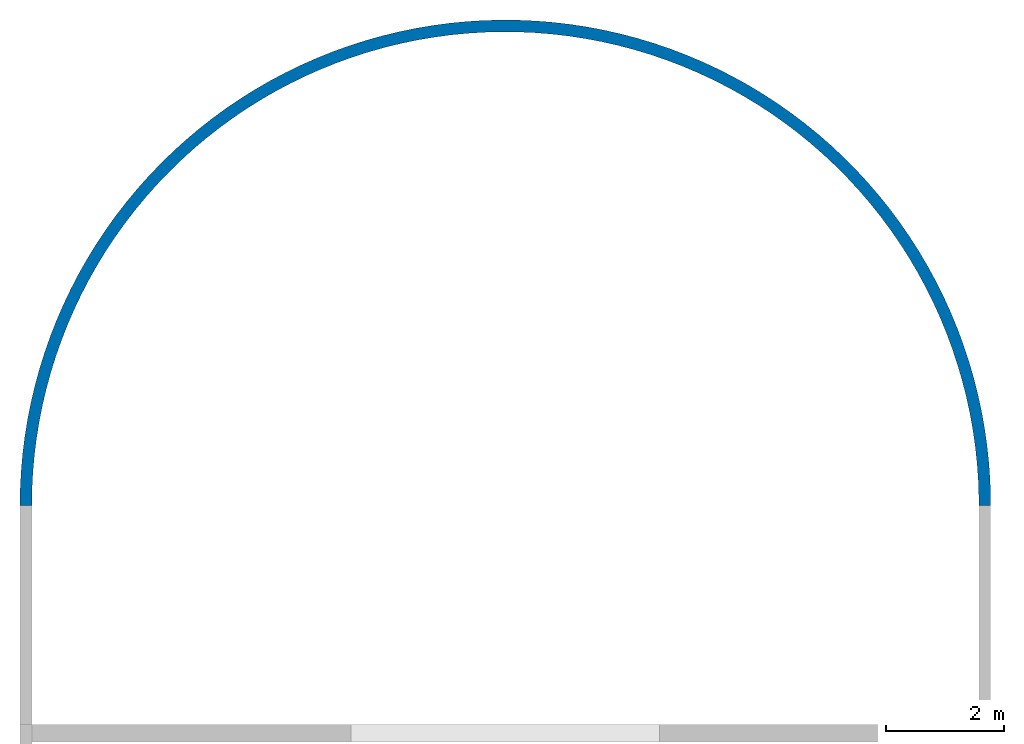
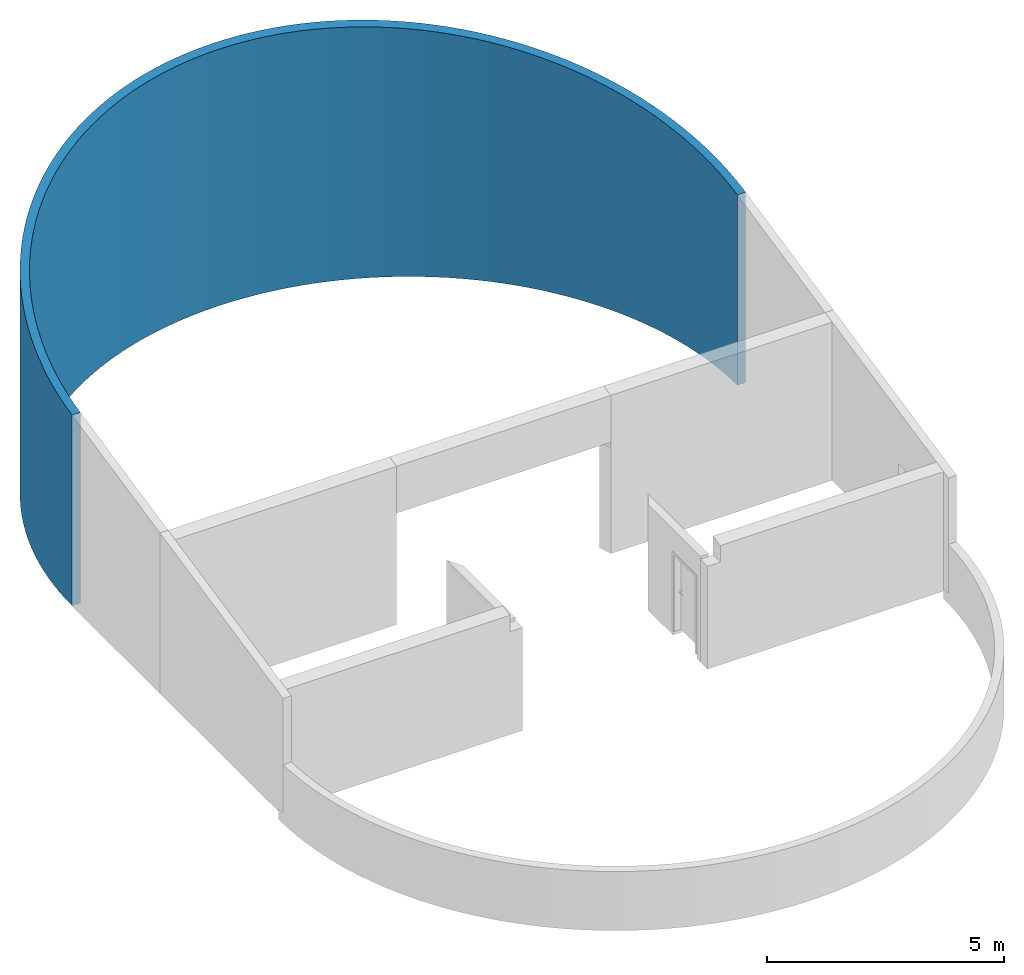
# One storey, part 7 of 7: 1 wall.
"""IFC4 building model written with IfcOpenShell, lengths in millimetres."""

from ifc_helpers import new_model, entity, si_unit, converted_unit, derived_unit, direction, frame, origin_with_axes, place, context, subcontext, project, spatial, polygons, material, constituent, constituent_set, type_object, element, save


model = new_model("IFC4")

# Units and contexts
model_context = context("Model", 3, precision=0.01, world=origin_with_axes(), true_north=direction((0.0, 1.0)))
body_context = subcontext(model_context, "Body", "Model", "MODEL_VIEW")
ifc_project = project(units=[si_unit("LENGTHUNIT", "METRE", prefix="MILLI"), si_unit("AREAUNIT", "SQUARE_METRE"), si_unit("VOLUMEUNIT", "CUBIC_METRE"), converted_unit("PLANEANGLEUNIT", "DEGREE", entity("IfcPlaneAngleMeasure", 0.0174532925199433), si_unit("PLANEANGLEUNIT", "RADIAN"), dimensions=[0, 0, 0, 0, 0, 0, 0]), converted_unit("TIMEUNIT", "Year", entity("IfcTimeMeasure", 31557600.0), si_unit("TIMEUNIT", "SECOND"), dimensions=[0, 0, 1, 0, 0, 0, 0]), si_unit("MASSUNIT", "GRAM", prefix="KILO"), si_unit("THERMODYNAMICTEMPERATUREUNIT", "DEGREE_CELSIUS"), si_unit("LUMINOUSINTENSITYUNIT", "LUMEN"), si_unit("ENERGYUNIT", "JOULE", prefix="MEGA"), derived_unit("THERMALCONDUCTANCEUNIT", [(si_unit("POWERUNIT", "WATT"), 1), (si_unit("LENGTHUNIT", "METRE"), -1), (si_unit("THERMODYNAMICTEMPERATUREUNIT", "KELVIN"), -1)]), derived_unit("SPECIFICHEATCAPACITYUNIT", [(si_unit("ENERGYUNIT", "JOULE"), 1), (si_unit("MASSUNIT", "GRAM", prefix="KILO"), -1), (si_unit("THERMODYNAMICTEMPERATUREUNIT", "KELVIN"), -1)]), derived_unit("MASSDENSITYUNIT", [(si_unit("MASSUNIT", "GRAM", prefix="KILO"), 1), (si_unit("VOLUMEUNIT", "CUBIC_METRE"), -1)])], contexts=[model_context])

# Site, building, storey
site_placement = place(None, origin_with_axes())
site = spatial("IfcSite", under=ifc_project, at=site_placement, Name="Exteriér", CompositionType="ELEMENT")
building_placement = place(site_placement, origin_with_axes())
building = spatial("IfcBuilding", under=site, at=building_placement, Name="Univerzitní lezecké centrum", CompositionType="ELEMENT")
storey_placement = place(building_placement, frame((0.0, 0.0, 9600.000000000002), z_axis=(0.0, 0.0, 1.0), x_axis=(1.0, 0.0, 0.0)))
storey = spatial("IfcBuildingStorey", under=building, at=storey_placement, Name="4.NP", CompositionType="ELEMENT", Elevation=9600.0)

# Wall
ifc_material = material(Name="Beton vyztužený - vnější svislé kce")
ifc_constituent = constituent(ifc_material, Name="Beton vyztužený - vnější svislé kce")
ifc_constituent_set = constituent_set(constituents=[ifc_constituent], Name="!Vnější betonová stěna 200 mm")
wall_type = type_object("IfcWallType", Name="!Vnější betonová stěna 200 mm 200", PredefinedType="NOTDEFINED")
wall_placement = place(storey_placement, frame((10449.85164885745, 8399.999999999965, -100.0000000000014), z_axis=(0.0, 0.0, 1.0), x_axis=(0.0, 1.0, 0.0)))
element("IfcWall", 1, at=wall_placement, inside=storey, type_object=wall_type, material=ifc_constituent_set, Name="St01", PredefinedType="NOTDEFINED", context=body_context, shape_type="Tessellation", body=[
    polygons([(436.4905859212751, -189.6680701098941, 4995.909327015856), (145.5579959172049, -199.9999999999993, 4934.069696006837), (145.5579959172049, -199.9999999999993, 0.0), (436.4905859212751, -189.6680701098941, 0.0), (0.0, -199.9999999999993, 4903.130388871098), (726.8732015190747, -169.0172284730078, 5057.632057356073), (1016.339963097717, -138.0734949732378, 5119.160116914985), (1304.526145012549, -96.87585845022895, 5180.415980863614), (1591.068635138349, -45.47622757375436, 5241.322467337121), (1875.606392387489, 16.06063456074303, 5301.802834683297), (2157.780901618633, 87.65719203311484, 5361.780878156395), (2437.236625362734, 169.2232337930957, 5421.181025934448), (2713.621451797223, 260.6559873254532, 5479.928434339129), (2986.587138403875, 361.8402481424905, 5537.949082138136), (3255.78975075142, 472.6485249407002, 5595.169863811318), (3520.890095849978, 592.9412002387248, 5651.518681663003), (3781.554149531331, 722.5667062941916, 5706.924536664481), (4037.453477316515, 861.3617160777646, 5761.317617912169), (4288.265648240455, 1009.151349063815, 5814.629390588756), (4533.674641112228, 1165.749391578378, 5866.792682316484), (4773.371242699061, 1330.958531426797, 5917.741767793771), (5007.053437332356, 1504.570606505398, 5967.412451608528), (5234.426787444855, 1686.366867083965, 6015.742149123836), (5455.204804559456, 1876.118251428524, 6062.669965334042), (5669.109310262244, 2073.585674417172, 6108.136771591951), (5875.870786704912, 2278.520328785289, 6152.085280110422), (6075.228716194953, 2490.663998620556, 6194.46011614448), (6266.931909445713, 2709.749384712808, 6235.207887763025), (6450.738822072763, 2935.50044134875, 6274.277253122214), (6626.417858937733, 3167.632724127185, 6311.618985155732), (6793.747665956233, 3405.853748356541, 6347.186033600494), (6952.51740900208, 3649.863357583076, 6380.933584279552), (7102.52703955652, 3899.354101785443, 6412.819115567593), (7243.587546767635, 4154.011624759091, 6442.802451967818), (7375.521195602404, 4413.51506020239, 6470.845814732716), (7498.161750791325, 4677.537436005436, 6496.913869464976), (7611.354686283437, 4945.746086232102, 6520.973770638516), (7714.957379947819, 5217.803070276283, 6542.995202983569), (7808.83929327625, 5493.365598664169, 6562.950419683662), (7892.882135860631, 5772.086464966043, 6580.814277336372), (7966.980014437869, 6053.614483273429, 6596.564267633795), (8031.039566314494, 6337.59493069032, 6610.180545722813), (8084.980077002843, 6623.669994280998, 6621.645955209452), (8128.733581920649, 6911.479221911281, 6630.946049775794), (8162.244952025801, 7200.659976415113, 6638.069111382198), (8185.471963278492, 7490.847892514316, 6643.006165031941), (8198.385349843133, 7781.677335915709, 6645.750990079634), (8200.96884096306, 8072.78186400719, 6646.300128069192), (8193.219181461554, 8363.794687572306, 6644.652887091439), (8175.146135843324, 8654.349132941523, 6640.811342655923), (8146.77247599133, 8944.07910399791, 6634.780335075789), (8108.133952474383, 9232.619543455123, 6626.567463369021), (8059.27924950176, 9519.606892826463, 6616.18307568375), (8000.269923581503, 9804.679550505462, 6603.640256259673), (7931.180325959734, 10087.47832738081, 6588.954808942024), (7852.097508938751, 10367.64689941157, 6572.145237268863), (7763.121116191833, 10644.83225659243, 6553.232721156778), (7664.363257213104, 10918.68514774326, 6532.241090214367), (7555.948366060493, 11188.86052056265, 6509.196793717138), (7438.013044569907, 11455.01795639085, 6484.128867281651), (7310.70589023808, 11716.82209913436, 6457.068896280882), (7174.187308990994, 11973.94307781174, 6428.050976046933), (7028.629313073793, 12226.05692218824, 6397.111668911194), (6874.215304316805, 12472.84597097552, 6364.289958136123), (6711.139843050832, 12713.99927208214, 6329.627198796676), (6539.608402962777, 12949.21297441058, 6293.16706567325), (6359.837112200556, 13178.19071070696, 6254.955498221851), (6172.052481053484, 13400.64397098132, 6215.040642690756), (5976.491116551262, 13616.29246602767, 6173.472791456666), (5773.399424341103, 13824.86448058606, 6130.304319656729), (5563.033298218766, 14026.09721570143, 6085.589619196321), (5345.657797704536, 14219.73711984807, 6039.385030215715), (5121.546814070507, 14405.54020840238, 5991.748770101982), (4890.982725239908, 14583.27237106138, 5942.740860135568), (4654.256039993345, 14752.70966681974, 5892.423049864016), (4411.665031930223, 14913.63860613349, 5840.858739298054), (4163.515363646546, 15065.85641991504, 5788.112899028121), (3910.119701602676, 15209.17131502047, 5734.251988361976), (3651.797322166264, 15343.40271590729, 5679.343871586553), (3388.873709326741, 15468.38149215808, 5623.457732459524), (3121.680144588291, 15583.95017158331, 5566.663987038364), (2850.553289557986, 15689.96313863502, 5509.034194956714), (2575.834761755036, 15786.28681788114, 5450.640969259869), (2297.870704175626, 15872.79984230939, 5391.557884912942), (2017.011349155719, 15949.39320624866, 5331.85938609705), (1733.610577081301, 16015.97040271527, 5271.620692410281), (1448.025470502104, 16072.44754501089, 5210.91770409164), (1160.615864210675, 16118.75347241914, 5149.8269063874), (871.743891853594, 16154.82983986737, 5088.425273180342), (581.7735296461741, 16180.63119144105, 5026.79017000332), (291.0701377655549, 16196.12501765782, 4964.999256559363), (0.0, 16199.99999999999, 4903.130388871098), (0.0, 15999.99999999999, 4903.130388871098), (283.9708661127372, 15996.21952942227, 4963.490259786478), (567.5839313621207, 15981.10360140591, 5023.774077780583), (850.4818457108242, 15955.93155109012, 5083.905885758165), (1132.308160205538, 15920.73509504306, 5143.809918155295), (1412.707776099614, 15875.55858049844, 5203.410696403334), (1691.32739227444, 15820.45892947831, 5262.633124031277), (1967.815950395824, 15755.50556707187, 5321.40258128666), (2241.825077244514, 15680.78033396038, 5379.645019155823), (2513.009523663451, 15596.37738329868, 5437.28705266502), (2781.027599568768, 15502.40306208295, 5494.25605334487), (3045.541604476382, 15398.97577715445, 5550.480240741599), (3306.218253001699, 15286.22584600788, 5605.888772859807), (3562.729094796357, 15164.29533259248, 5660.411835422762), (3814.750928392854, 15033.33786831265, 5713.980729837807), (4061.966208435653, 14893.51845845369, 5766.527959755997), (4304.063445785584, 14745.01327427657, 5817.987316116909), (4540.737599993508, 14588.00943104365, 5868.293960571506), (4771.690463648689, 14422.704752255, 5917.384507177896), (4996.63103811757, 14249.30752039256, 5965.197102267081), (5215.275900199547, 14068.03621448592, 6011.671502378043), (5427.34955923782, 13879.11923483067, 6056.749150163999), (5632.584804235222, 13682.79461520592, 6100.373248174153), (5830.723040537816, 13479.30972295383, 6142.488830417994), (6021.514615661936, 13268.92094729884, 6183.042831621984), (6204.719133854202, 13051.89337629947, 6221.984154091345), (6380.105758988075, 12828.50046283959, 6259.263732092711), (6547.453505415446, 12599.02368008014, 6294.834593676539), (6706.551516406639, 12363.75216680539, 6328.651919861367), (6857.199329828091, 12122.98236311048, 6360.673101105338), (6999.207130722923, 11877.0176368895, 6390.857790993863), (7132.395990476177, 11626.1679015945, 6419.167957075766), (7256.598092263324, 11370.74922574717, 6445.567928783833), (7371.656942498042, 11111.08343469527, 6470.024442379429), (7477.427568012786, 10847.49770511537, 6492.506682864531), (7573.776698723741, 10580.3241527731, 6512.986322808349), (7660.58293555, 10309.89941406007, 6531.437558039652), (7737.736903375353, 10036.56422183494, 6547.837140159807), (7805.141388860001, 9760.662976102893, 6562.16440583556), (7862.711462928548, 9482.543310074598, 6574.401302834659), (7910.374587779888, 9202.555652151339, 6584.532412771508), (7948.070708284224, 8921.052784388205, 6592.54497053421), (7975.752327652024, 8638.38939799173, 6598.428880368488), (7993.384567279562, 8354.921646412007, 6602.176728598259), (8000.945210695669, 8071.006696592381, 6603.783792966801), (7998.424731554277, 7787.002278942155, 6603.248048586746), (7985.826305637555, 7503.266236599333, 6600.570170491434), (7963.165806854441, 7220.15607455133, 6595.753532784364), (7930.471787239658, 6938.028509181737, 6588.804204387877), (7887.785440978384, 6657.23901881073, 6579.730941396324), (7835.160552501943, 6378.141395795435, 6568.545176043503), (7772.66342871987, 6101.087300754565, 6555.261002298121), (7700.372815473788, 5826.425819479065, 6539.895158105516), (7618.379798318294, 5554.503023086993, 6522.467004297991), (7526.78768775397, 5285.66153197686, 6502.998500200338), (7425.711889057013, 5020.240084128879, 6481.514175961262), (7315.279756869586, 4758.573108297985, 6458.041101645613), (7195.630434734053, 4500.990302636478, 6432.608853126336), (7066.914679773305, 4247.816219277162, 6405.249474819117), (6929.29467273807, 3999.369855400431, 6375.997439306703), (6782.943813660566, 3755.964251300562, 6344.889603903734), (6628.046503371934, 3517.906095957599, 6311.965164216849), (6464.797911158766, 3285.495340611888, 6277.265604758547), (6293.403728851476, 3059.024820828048, 6240.834646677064), (6114.079911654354, 2838.779887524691, 6202.718192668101), (5927.052406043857, 2625.038047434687, 6162.964269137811), (5732.556865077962, 2418.06861344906, 6121.62296568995), (5530.838351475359, 2218.132365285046, 6078.746372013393), (5322.151028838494, 2025.481220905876, 6034.388512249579), (5106.757841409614, 1840.357919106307, 5988.605276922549), (4884.930182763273, 1662.995713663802, 5941.454352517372), (4656.947553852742, 1493.618079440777, 5892.995148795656), (4423.097210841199, 1332.438430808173, 5843.288723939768), (4183.673803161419, 1179.659852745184, 5792.397707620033), (3938.979002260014, 1035.474844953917, 5740.3862220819), (3689.321121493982, 900.0650793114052, 5687.319801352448), (3435.014727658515, 773.6011709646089, 5633.265308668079), (3176.380244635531, 656.2424633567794, 5578.290852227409), (2913.743549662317, 548.1368274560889, 5522.465699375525), (2647.435562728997, 449.4204754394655, 5465.860189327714), (2377.791829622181, 360.217789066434, 5408.54564454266), (2105.152099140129, 280.6411629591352, 5350.594280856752), (1829.859895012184, 210.7908629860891, 5292.079116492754), (1552.262083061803, 150.7548999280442, 5233.073880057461), (1272.708434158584, 100.6089185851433, 5173.652917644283), (991.5511835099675, 60.41610246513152, 5113.891099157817), (709.1445868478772, 30.227094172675, 5053.86372397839), (425.8444740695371, 10.07993160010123, 4993.646426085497), (142.0078008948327, 0.0, 4933.315078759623), (0.0, 0.0, 4903.130388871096), (0.0, -199.9999999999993, 0.0), (142.0078008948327, 0.0, 0.0), (425.8444740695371, 10.07993160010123, 0.0), (726.8732015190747, -169.0172284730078, 0.0), (1016.339963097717, -138.0734949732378, 0.0), (1304.526145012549, -96.87585845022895, 0.0), (1591.068635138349, -45.47622757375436, 0.0), (1875.606392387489, 16.06063456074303, 0.0), (2157.780901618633, 87.65719203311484, 0.0), (2437.236625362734, 169.2232337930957, 0.0), (2713.621451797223, 260.6559873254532, 0.0), (2986.587138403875, 361.8402481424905, 0.0), (3255.78975075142, 472.6485249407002, 0.0), (3520.890095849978, 592.9412002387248, 0.0), (3781.554149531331, 722.5667062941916, 0.0), (4037.453477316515, 861.3617160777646, 0.0), (4288.265648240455, 1009.151349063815, 0.0), (4533.674641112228, 1165.749391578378, 0.0), (4773.371242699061, 1330.958531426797, 0.0), (5007.053437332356, 1504.570606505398, 0.0), (5234.426787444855, 1686.366867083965, 0.0), (5455.204804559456, 1876.118251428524, 0.0), (5669.109310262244, 2073.585674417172, 0.0), (5875.870786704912, 2278.520328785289, 0.0), (6075.228716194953, 2490.663998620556, 0.0), (6266.931909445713, 2709.749384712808, 0.0), (6450.738822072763, 2935.50044134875, 0.0), (6626.417858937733, 3167.632724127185, 0.0), (6793.747665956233, 3405.853748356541, 0.0), (6952.51740900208, 3649.863357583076, 0.0), (7102.52703955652, 3899.354101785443, 0.0), (7243.587546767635, 4154.011624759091, 0.0), (7375.521195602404, 4413.51506020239, 0.0), (7498.161750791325, 4677.537436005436, 0.0), (7611.354686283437, 4945.746086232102, 0.0), (7714.957379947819, 5217.803070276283, 0.0), (7808.83929327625, 5493.365598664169, 0.0), (7892.882135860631, 5772.086464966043, 0.0), (7966.980014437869, 6053.614483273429, 0.0), (8031.039566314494, 6337.59493069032, 0.0), (8084.980077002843, 6623.669994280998, 0.0), (8128.733581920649, 6911.479221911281, 0.0), (8162.244952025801, 7200.659976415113, 0.0), (8185.471963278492, 7490.847892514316, 0.0), (8198.385349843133, 7781.677335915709, 0.0), (8200.96884096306, 8072.78186400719, 0.0), (8193.219181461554, 8363.794687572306, 0.0), (8175.146135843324, 8654.349132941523, 0.0), (8146.77247599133, 8944.07910399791, 0.0), (8108.133952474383, 9232.619543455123, 0.0), (8059.27924950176, 9519.606892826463, 0.0), (8000.269923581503, 9804.679550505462, 0.0), (7931.180325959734, 10087.47832738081, 0.0), (7852.097508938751, 10367.64689941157, 0.0), (7763.121116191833, 10644.83225659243, 0.0), (7664.363257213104, 10918.68514774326, 0.0), (7555.948366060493, 11188.86052056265, 0.0), (7438.013044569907, 11455.01795639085, 0.0), (7310.70589023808, 11716.82209913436, 0.0), (7174.187308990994, 11973.94307781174, 0.0), (7028.629313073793, 12226.05692218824, 0.0), (6874.215304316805, 12472.84597097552, 0.0), (6711.139843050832, 12713.99927208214, 0.0), (6539.608402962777, 12949.21297441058, 0.0), (6359.837112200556, 13178.19071070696, 0.0), (6172.052481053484, 13400.64397098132, 0.0), (5976.491116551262, 13616.29246602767, 0.0), (5773.399424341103, 13824.86448058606, 0.0), (5563.033298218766, 14026.09721570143, 0.0), (5345.657797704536, 14219.73711984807, 0.0), (5121.546814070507, 14405.54020840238, 0.0), (4890.982725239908, 14583.27237106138, 0.0), (4654.256039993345, 14752.70966681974, 0.0), (4411.665031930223, 14913.63860613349, 0.0), (4163.515363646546, 15065.85641991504, 0.0), (3910.119701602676, 15209.17131502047, 0.0), (3651.797322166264, 15343.40271590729, 0.0), (3388.873709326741, 15468.38149215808, 0.0), (3121.680144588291, 15583.95017158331, 0.0), (2850.553289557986, 15689.96313863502, 0.0), (2575.834761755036, 15786.28681788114, 0.0), (2297.870704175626, 15872.79984230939, 0.0), (2017.011349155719, 15949.39320624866, 0.0), (1733.610577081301, 16015.97040271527, 0.0), (1448.025470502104, 16072.44754501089, 0.0), (1160.615864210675, 16118.75347241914, 0.0), (871.743891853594, 16154.82983986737, 0.0), (581.7735296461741, 16180.63119144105, 0.0), (291.0701377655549, 16196.12501765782, 0.0), (0.0, 16199.99999999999, 0.0), (0.0, 15999.99999999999, 0.0), (283.9708661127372, 15996.21952942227, 0.0), (567.5839313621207, 15981.10360140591, 0.0), (850.4818457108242, 15955.93155109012, 0.0), (1132.308160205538, 15920.73509504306, 0.0), (1412.707776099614, 15875.55858049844, 0.0), (1691.32739227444, 15820.45892947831, 0.0), (1967.815950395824, 15755.50556707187, 0.0), (2241.825077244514, 15680.78033396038, 0.0), (2513.009523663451, 15596.37738329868, 0.0), (2781.027599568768, 15502.40306208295, 0.0), (3045.541604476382, 15398.97577715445, 0.0), (3306.218253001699, 15286.22584600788, 0.0), (3562.729094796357, 15164.29533259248, 0.0), (3814.750928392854, 15033.33786831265, 0.0), (4061.966208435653, 14893.51845845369, 0.0), (4304.063445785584, 14745.01327427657, 0.0), (4540.737599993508, 14588.00943104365, 0.0), (4771.690463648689, 14422.704752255, 0.0), (4996.63103811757, 14249.30752039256, 0.0), (5215.275900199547, 14068.03621448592, 0.0), (5427.34955923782, 13879.11923483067, 0.0), (5632.584804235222, 13682.79461520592, 0.0), (5830.723040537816, 13479.30972295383, 0.0), (6021.514615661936, 13268.92094729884, 0.0), (6204.719133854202, 13051.89337629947, 0.0), (6380.105758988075, 12828.50046283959, 0.0), (6547.453505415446, 12599.02368008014, 0.0), (6706.551516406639, 12363.75216680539, 0.0), (6857.199329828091, 12122.98236311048, 0.0), (6999.207130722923, 11877.0176368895, 0.0), (7132.395990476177, 11626.1679015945, 0.0), (7256.598092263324, 11370.74922574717, 0.0), (7371.656942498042, 11111.08343469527, 0.0), (7477.427568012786, 10847.49770511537, 0.0), (7573.776698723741, 10580.3241527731, 0.0), (7660.58293555, 10309.89941406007, 0.0), (7737.736903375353, 10036.56422183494, 0.0), (7805.141388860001, 9760.662976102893, 0.0), (7862.711462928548, 9482.543310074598, 0.0), (7910.374587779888, 9202.555652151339, 0.0), (7948.070708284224, 8921.052784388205, 0.0), (7975.752327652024, 8638.38939799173, 0.0), (7993.384567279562, 8354.921646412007, 0.0), (8000.945210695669, 8071.006696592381, 0.0), (7998.424731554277, 7787.002278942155, 0.0), (7985.826305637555, 7503.266236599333, 0.0), (7963.165806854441, 7220.15607455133, 0.0), (7930.471787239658, 6938.028509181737, 0.0), (7887.785440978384, 6657.23901881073, 0.0), (7835.160552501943, 6378.141395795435, 0.0), (7772.66342871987, 6101.087300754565, 0.0), (7700.372815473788, 5826.425819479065, 0.0), (7618.379798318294, 5554.503023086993, 0.0), (7526.78768775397, 5285.66153197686, 0.0), (7425.711889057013, 5020.240084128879, 0.0), (7315.279756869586, 4758.573108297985, 0.0), (7195.630434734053, 4500.990302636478, 0.0), (7066.914679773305, 4247.816219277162, 0.0), (6929.29467273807, 3999.369855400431, 0.0), (6782.943813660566, 3755.964251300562, 0.0), (6628.046503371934, 3517.906095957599, 0.0), (6464.797911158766, 3285.495340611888, 0.0), (6293.403728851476, 3059.024820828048, 0.0), (6114.079911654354, 2838.779887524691, 0.0), (5927.052406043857, 2625.038047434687, 0.0), (5732.556865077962, 2418.06861344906, 0.0), (5530.838351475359, 2218.132365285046, 0.0), (5322.151028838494, 2025.481220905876, 0.0), (5106.757841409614, 1840.357919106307, 0.0), (4884.930182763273, 1662.995713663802, 0.0), (4656.947553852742, 1493.618079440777, 0.0), (4423.097210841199, 1332.438430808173, 0.0), (4183.673803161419, 1179.659852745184, 0.0), (3938.979002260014, 1035.474844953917, 0.0), (3689.321121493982, 900.0650793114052, 0.0), (3435.014727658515, 773.6011709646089, 0.0), (3176.380244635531, 656.2424633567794, 0.0), (2913.743549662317, 548.1368274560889, 0.0), (2647.435562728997, 449.4204754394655, 0.0), (2377.791829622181, 360.217789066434, 0.0), (2105.152099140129, 280.6411629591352, 0.0), (1829.859895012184, 210.7908629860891, 0.0), (1552.262083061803, 150.7548999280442, 0.0), (1272.708434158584, 100.6089185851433, 0.0), (991.5511835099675, 60.41610246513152, 0.0), (709.1445868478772, 30.227094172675, 0.0), (0.0, 0.0, 0.0)], [[[1, 2, 3, 4]], [[5, 2, 1, 6, 7, 8, 9, 10, 11, 12, 13, 14, 15, 16, 17, 18, 19, 20, 21, 22, 23, 24, 25, 26, 27, 28, 29, 30, 31, 32, 33, 34, 35, 36, 37, 38, 39, 40, 41, 42, 43, 44, 45, 46, 47, 48, 49, 50, 51, 52, 53, 54, 55, 56, 57, 58, 59, 60, 61, 62, 63, 64, 65, 66, 67, 68, 69, 70, 71, 72, 73, 74, 75, 76, 77, 78, 79, 80, 81, 82, 83, 84, 85, 86, 87, 88, 89, 90, 91, 92, 93, 94, 95, 96, 97, 98, 99, 100, 101, 102, 103, 104, 105, 106, 107, 108, 109, 110, 111, 112, 113, 114, 115, 116, 117, 118, 119, 120, 121, 122, 123, 124, 125, 126, 127, 128, 129, 130, 131, 132, 133, 134, 135, 136, 137, 138, 139, 140, 141, 142, 143, 144, 145, 146, 147, 148, 149, 150, 151, 152, 153, 154, 155, 156, 157, 158, 159, 160, 161, 162, 163, 164, 165, 166, 167, 168, 169, 170, 171, 172, 173, 174, 175, 176, 177, 178, 179, 180, 181, 182]], [[2, 5, 183, 3]], [[3, 184, 185, 4]], [[6, 1, 4, 186]], [[7, 6, 186, 187]], [[8, 7, 187, 188]], [[9, 8, 188, 189]], [[10, 9, 189, 190]], [[11, 10, 190, 191]], [[12, 11, 191, 192]], [[13, 12, 192, 193]], [[14, 13, 193, 194]], [[15, 14, 194, 195]], [[16, 15, 195, 196]], [[17, 16, 196, 197]], [[18, 17, 197, 198]], [[19, 18, 198, 199]], [[20, 19, 199, 200]], [[21, 20, 200, 201]], [[22, 21, 201, 202]], [[23, 22, 202, 203]], [[24, 23, 203, 204]], [[25, 24, 204, 205]], [[26, 25, 205, 206]], [[27, 26, 206, 207]], [[28, 27, 207, 208]], [[29, 28, 208, 209]], [[30, 29, 209, 210]], [[31, 30, 210, 211]], [[32, 31, 211, 212]], [[33, 32, 212, 213]], [[34, 33, 213, 214]], [[35, 34, 214, 215]], [[36, 35, 215, 216]], [[37, 36, 216, 217]], [[38, 37, 217, 218]], [[39, 38, 218, 219]], [[40, 39, 219, 220]], [[41, 40, 220, 221]], [[42, 41, 221, 222]], [[43, 42, 222, 223]], [[44, 43, 223, 224]], [[45, 44, 224, 225]], [[46, 45, 225, 226]], [[47, 46, 226, 227]], [[48, 47, 227, 228]], [[49, 48, 228, 229]], [[50, 49, 229, 230]], [[51, 50, 230, 231]], [[52, 51, 231, 232]], [[53, 52, 232, 233]], [[54, 53, 233, 234]], [[55, 54, 234, 235]], [[56, 55, 235, 236]], [[57, 56, 236, 237]], [[58, 57, 237, 238]], [[59, 58, 238, 239]], [[60, 59, 239, 240]], [[61, 60, 240, 241]], [[62, 61, 241, 242]], [[63, 62, 242, 243]], [[64, 63, 243, 244]], [[65, 64, 244, 245]], [[66, 65, 245, 246]], [[67, 66, 246, 247]], [[68, 67, 247, 248]], [[69, 68, 248, 249]], [[70, 69, 249, 250]], [[71, 70, 250, 251]], [[72, 71, 251, 252]], [[73, 72, 252, 253]], [[74, 73, 253, 254]], [[75, 74, 254, 255]], [[76, 75, 255, 256]], [[77, 76, 256, 257]], [[78, 77, 257, 258]], [[79, 78, 258, 259]], [[80, 79, 259, 260]], [[81, 80, 260, 261]], [[82, 81, 261, 262]], [[83, 82, 262, 263]], [[84, 83, 263, 264]], [[85, 84, 264, 265]], [[86, 85, 265, 266]], [[87, 86, 266, 267]], [[88, 87, 267, 268]], [[89, 88, 268, 269]], [[90, 89, 269, 270]], [[91, 90, 270, 271]], [[92, 91, 271, 272]], [[93, 92, 272, 273]], [[94, 93, 273, 274]], [[95, 94, 274, 275]], [[96, 95, 275, 276]], [[97, 96, 276, 277]], [[98, 97, 277, 278]], [[99, 98, 278, 279]], [[100, 99, 279, 280]], [[101, 100, 280, 281]], [[102, 101, 281, 282]], [[103, 102, 282, 283]], [[104, 103, 283, 284]], [[105, 104, 284, 285]], [[106, 105, 285, 286]], [[107, 106, 286, 287]], [[108, 107, 287, 288]], [[109, 108, 288, 289]], [[110, 109, 289, 290]], [[111, 110, 290, 291]], [[112, 111, 291, 292]], [[113, 112, 292, 293]], [[114, 113, 293, 294]], [[115, 114, 294, 295]], [[116, 115, 295, 296]], [[117, 116, 296, 297]], [[118, 117, 297, 298]], [[119, 118, 298, 299]], [[120, 119, 299, 300]], [[121, 120, 300, 301]], [[122, 121, 301, 302]], [[123, 122, 302, 303]], [[124, 123, 303, 304]], [[125, 124, 304, 305]], [[126, 125, 305, 306]], [[127, 126, 306, 307]], [[128, 127, 307, 308]], [[129, 128, 308, 309]], [[130, 129, 309, 310]], [[131, 130, 310, 311]], [[132, 131, 311, 312]], [[133, 132, 312, 313]], [[134, 133, 313, 314]], [[135, 134, 314, 315]], [[136, 135, 315, 316]], [[137, 136, 316, 317]], [[138, 137, 317, 318]], [[139, 138, 318, 319]], [[140, 139, 319, 320]], [[141, 140, 320, 321]], [[142, 141, 321, 322]], [[143, 142, 322, 323]], [[144, 143, 323, 324]], [[145, 144, 324, 325]], [[146, 145, 325, 326]], [[147, 146, 326, 327]], [[148, 147, 327, 328]], [[149, 148, 328, 329]], [[150, 149, 329, 330]], [[151, 150, 330, 331]], [[152, 151, 331, 332]], [[153, 152, 332, 333]], [[154, 153, 333, 334]], [[155, 154, 334, 335]], [[156, 155, 335, 336]], [[157, 156, 336, 337]], [[158, 157, 337, 338]], [[159, 158, 338, 339]], [[160, 159, 339, 340]], [[161, 160, 340, 341]], [[162, 161, 341, 342]], [[163, 162, 342, 343]], [[164, 163, 343, 344]], [[165, 164, 344, 345]], [[166, 165, 345, 346]], [[167, 166, 346, 347]], [[168, 167, 347, 348]], [[169, 168, 348, 349]], [[170, 169, 349, 350]], [[171, 170, 350, 351]], [[172, 171, 351, 352]], [[173, 172, 352, 353]], [[174, 173, 353, 354]], [[175, 174, 354, 355]], [[176, 175, 355, 356]], [[177, 176, 356, 357]], [[178, 177, 357, 358]], [[179, 178, 358, 359]], [[180, 179, 359, 185]], [[181, 180, 185, 184]], [[182, 181, 184, 360]], [[5, 182, 360, 183]], [[183, 360, 184, 3]], [[4, 185, 359, 186]], [[186, 359, 358, 187]], [[187, 358, 357, 188]], [[188, 357, 356, 189]], [[189, 356, 355, 190]], [[190, 355, 354, 191]], [[191, 354, 353, 192]], [[192, 353, 352, 193]], [[193, 352, 351, 194]], [[194, 351, 350, 195]], [[195, 350, 349, 196]], [[196, 349, 348, 197]], [[197, 348, 347, 198]], [[198, 347, 346, 199]], [[199, 346, 345, 200]], [[200, 345, 344, 201]], [[201, 344, 343, 202]], [[202, 343, 342, 203]], [[203, 342, 341, 204]], [[204, 341, 340, 205]], [[205, 340, 339, 206]], [[206, 339, 338, 207]], [[207, 338, 337, 208]], [[208, 337, 336, 209]], [[209, 336, 335, 210]], [[210, 335, 334, 211]], [[211, 334, 333, 212]], [[212, 333, 332, 213]], [[213, 332, 331, 214]], [[214, 331, 330, 215]], [[215, 330, 329, 216]], [[216, 329, 328, 217]], [[217, 328, 327, 218]], [[218, 327, 326, 219]], [[219, 326, 325, 220]], [[220, 325, 324, 221]], [[221, 324, 323, 222]], [[222, 323, 322, 223]], [[223, 322, 321, 224]], [[224, 321, 320, 225]], [[225, 320, 319, 226]], [[226, 319, 318, 227]], [[227, 318, 317, 228]], [[228, 317, 316, 229]], [[229, 316, 315, 230]], [[230, 315, 314, 231]], [[231, 314, 313, 232]], [[232, 313, 312, 233]], [[233, 312, 311, 234]], [[234, 311, 310, 235]], [[235, 310, 309, 236]], [[236, 309, 308, 237]], [[237, 308, 307, 238]], [[238, 307, 306, 239]], [[239, 306, 305, 240]], [[240, 305, 304, 241]], [[241, 304, 303, 242]], [[242, 303, 302, 243]], [[243, 302, 301, 244]], [[244, 301, 300, 245]], [[245, 300, 299, 246]], [[246, 299, 298, 247]], [[247, 298, 297, 248]], [[248, 297, 296, 249]], [[249, 296, 295, 250]], [[250, 295, 294, 251]], [[251, 294, 293, 252]], [[252, 293, 292, 253]], [[253, 292, 291, 254]], [[254, 291, 290, 255]], [[255, 290, 289, 256]], [[256, 289, 288, 257]], [[257, 288, 287, 258]], [[258, 287, 286, 259]], [[259, 286, 285, 260]], [[260, 285, 284, 261]], [[261, 284, 283, 262]], [[262, 283, 282, 263]], [[263, 282, 281, 264]], [[264, 281, 280, 265]], [[265, 280, 279, 266]], [[266, 279, 278, 267]], [[267, 278, 277, 268]], [[268, 277, 276, 269]], [[269, 276, 275, 270]], [[270, 275, 274, 271]], [[271, 274, 273, 272]]], closed=True),
])

save(model, "model.ifc")
